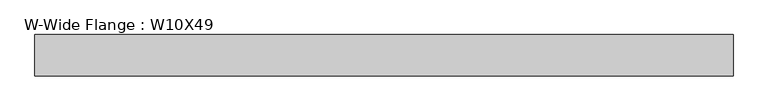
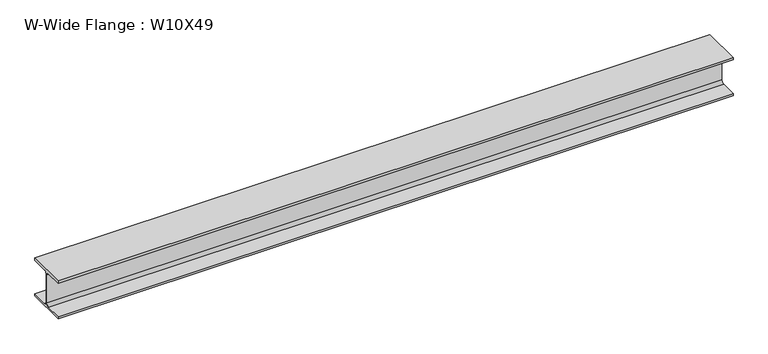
"""IFC4 building model written with IfcOpenShell, lengths in millimetres: beam geometry, W-Wide Flange : W10X49."""

from ifc_helpers import new_model, si_unit, point, frame, frame_2d, origin, place, context, project, spatial, polyline, circle_curve, trimmed, segment, composite_curve, outline, extrude, source, transform, mapped, element, save


def w_wide_flange_w10x49_85831f45(model_context):
    return source(origin(), model_context, "Body", "SweptSolid", [
        extrude(outline(composite_curve([segment(polyline([(127.0, -112.776), (127.0, -127.0), (-127.0, -127.0), (-127.0, -112.776), (-21.844, -112.776)]), True, "CONTINUOUS"), segment(trimmed(circle_curve(frame_2d((-21.844, -95.25)), 17.526), [point((-21.844, -112.776))], [point((-4.318, -95.25))], True, "CARTESIAN"), True, "CONTINUOUS"), segment(polyline([(-4.318, -95.25), (-4.318, 95.25)]), True, "CONTINUOUS"), segment(trimmed(circle_curve(frame_2d((-21.844, 95.25)), 17.526), [point((-4.318, 95.25))], [point((-21.844, 112.776))], True, "CARTESIAN"), True, "CONTINUOUS"), segment(polyline([(-21.844, 112.776), (-127.0, 112.776), (-127.0, 127.0), (127.0, 127.0), (127.0, 112.776), (21.844, 112.776)]), True, "CONTINUOUS"), segment(trimmed(circle_curve(frame_2d((21.844, 95.25)), 17.526), [point((21.844, 112.776))], [point((4.318, 95.25))], True, "CARTESIAN"), True, "CONTINUOUS"), segment(polyline([(4.318, 95.25), (4.318, -95.25)]), True, "CONTINUOUS"), segment(trimmed(circle_curve(frame_2d((21.844, -95.25)), 17.526), [point((4.318, -95.25))], [point((21.844, -112.776))], True, "CARTESIAN"), True, "CONTINUOUS"), segment(polyline([(21.844, -112.776), (127.0, -112.776)]), True, "CONTINUOUS")], self_intersect=False)), frame((-2142.7940989, 0.0, 0.0), z_axis=(1.0, 0.0, 0.0), x_axis=(0.0, 1.0, 0.0)), (0.0, 0.0, 1.0), 4286.3336069),
    ])


if __name__ == "__main__":
    model = new_model("IFC4")
    model_context = context("Model", 3, world=origin())
    ifc_project = project(units=[si_unit("LENGTHUNIT", "METRE", prefix="MILLI")], contexts=[model_context])
    site = spatial("IfcSite", under=ifc_project)
    building = spatial("IfcBuilding", under=site)
    placement = place(None, origin())
    w_wide_flange_w10x49_shape = w_wide_flange_w10x49_85831f45(model_context)
    element("IfcBeam", 1, ObjectType="W-Wide Flange : W10X49", at=placement, inside=building, context=model_context, shape_type="MappedRepresentation", body=[
        mapped(w_wide_flange_w10x49_shape, transform((0.0, 0.0, 0.0), x_axis=(1.0, 0.0, 0.0), y_axis=(0.0, 1.0, 0.0), z_axis=(0.0, 0.0, 1.0))),
    ])
    save(model, "model.ifc")
